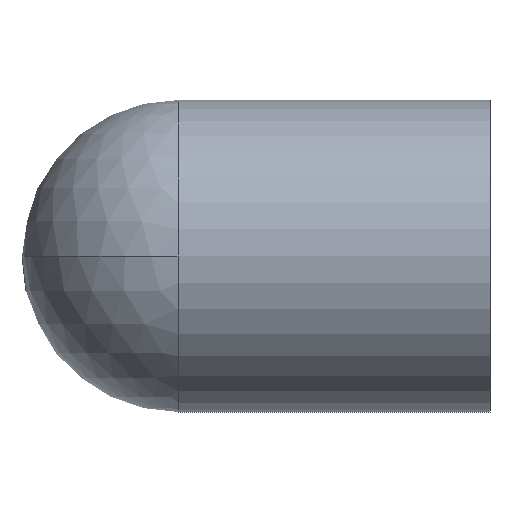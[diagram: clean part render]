
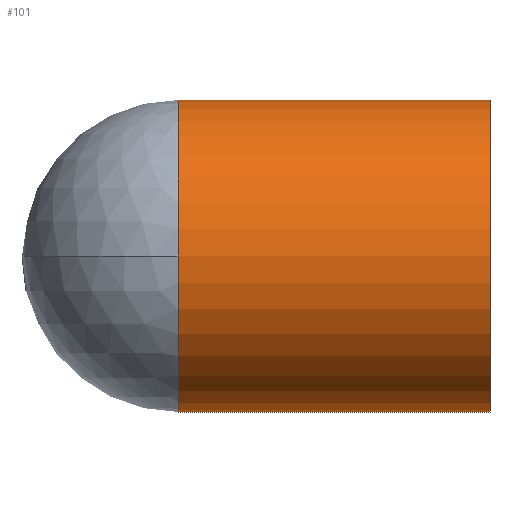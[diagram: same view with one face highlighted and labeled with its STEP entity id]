
A CAD part, left-side view. The second image highlights one B-rep face of the part: STEP entity #101.
In plain terms, the highlighted cylindrical face has radius 19.05 mm (diameter 38.1 mm), a partial arc.
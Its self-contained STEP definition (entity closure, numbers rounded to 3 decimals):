
#9 = DIRECTION ( 'NONE',  ( 0., -1., 0. ) ) ;
#13 = CYLINDRICAL_SURFACE ( 'NONE', #81, 19.05 ) ;
#19 = VERTEX_POINT ( 'NONE', #265 ) ;
#23 = ORIENTED_EDGE ( 'NONE', *, *, #105, .F. ) ;
#32 = CARTESIAN_POINT ( 'NONE',  ( -6.35, 38.1, 19.05 ) ) ;
#38 = EDGE_CURVE ( 'NONE', #42, #178, #91, .T. ) ;
#42 = VERTEX_POINT ( 'NONE', #264 ) ;
#43 = AXIS2_PLACEMENT_3D ( 'NONE', #180, #223, #134 ) ;
#44 = ORIENTED_EDGE ( 'NONE', *, *, #122, .T. ) ;
#50 = DIRECTION ( 'NONE',  ( 0., -1., 0. ) ) ;
#54 = EDGE_CURVE ( 'NONE', #19, #42, #195, .T. ) ;
#66 = EDGE_LOOP ( 'NONE', ( #308, #44, #300, #224, #23 ) ) ;
#77 = VECTOR ( 'NONE', #203, 1000. ) ;
#81 = AXIS2_PLACEMENT_3D ( 'NONE', #190, #247, #84 ) ;
#84 = DIRECTION ( 'NONE',  ( 0., 0., -1. ) ) ;
#89 = CARTESIAN_POINT ( 'NONE',  ( -6.35, 38.1, 0. ) ) ;
#91 = LINE ( 'NONE', #108, #239 ) ;
#93 = CARTESIAN_POINT ( 'NONE',  ( -6.35, 0., 19.05 ) ) ;
#98 = EDGE_CURVE ( 'NONE', #133, #262, #242, .T. ) ;
#101 = ADVANCED_FACE ( 'NONE', ( #155 ), #13, .T. ) ;
#105 = EDGE_CURVE ( 'NONE', #262, #178, #214, .T. ) ;
#108 = CARTESIAN_POINT ( 'NONE',  ( -6.35, 38.1, -19.05 ) ) ;
#119 = DIRECTION ( 'NONE',  ( 0., 0., -1. ) ) ;
#122 = EDGE_CURVE ( 'NONE', #133, #19, #198, .T. ) ;
#133 = VERTEX_POINT ( 'NONE', #302 ) ;
#134 = DIRECTION ( 'NONE',  ( 0., 0., -1. ) ) ;
#155 = FACE_OUTER_BOUND ( 'NONE', #66, .T. ) ;
#175 = AXIS2_PLACEMENT_3D ( 'NONE', #89, #249, #119 ) ;
#178 = VERTEX_POINT ( 'NONE', #232 ) ;
#180 = CARTESIAN_POINT ( 'NONE',  ( -6.35, 38.1, 0. ) ) ;
#190 = CARTESIAN_POINT ( 'NONE',  ( -6.35, 38.1, 0. ) ) ;
#191 = DIRECTION ( 'NONE',  ( 0., 0., -1. ) ) ;
#194 = AXIS2_PLACEMENT_3D ( 'NONE', #297, #9, #191 ) ;
#195 = CIRCLE ( 'NONE', #43, 19.05 ) ;
#198 = CIRCLE ( 'NONE', #175, 19.05 ) ;
#203 = DIRECTION ( 'NONE',  ( 0., -1., 0. ) ) ;
#214 = CIRCLE ( 'NONE', #194, 19.05 ) ;
#223 = DIRECTION ( 'NONE',  ( 0., -1., 0. ) ) ;
#224 = ORIENTED_EDGE ( 'NONE', *, *, #38, .T. ) ;
#232 = CARTESIAN_POINT ( 'NONE',  ( -6.35, 0., -19.05 ) ) ;
#239 = VECTOR ( 'NONE', #50, 1000. ) ;
#242 = LINE ( 'NONE', #32, #77 ) ;
#247 = DIRECTION ( 'NONE',  ( 0., -1., 0. ) ) ;
#249 = DIRECTION ( 'NONE',  ( 0., -1., 0. ) ) ;
#262 = VERTEX_POINT ( 'NONE', #93 ) ;
#264 = CARTESIAN_POINT ( 'NONE',  ( -6.35, 38.1, -19.05 ) ) ;
#265 = CARTESIAN_POINT ( 'NONE',  ( -25.4, 38.1, 0. ) ) ;
#297 = CARTESIAN_POINT ( 'NONE',  ( -6.35, 0., 0. ) ) ;
#300 = ORIENTED_EDGE ( 'NONE', *, *, #54, .T. ) ;
#302 = CARTESIAN_POINT ( 'NONE',  ( -6.35, 38.1, 19.05 ) ) ;
#308 = ORIENTED_EDGE ( 'NONE', *, *, #98, .F. ) ;
